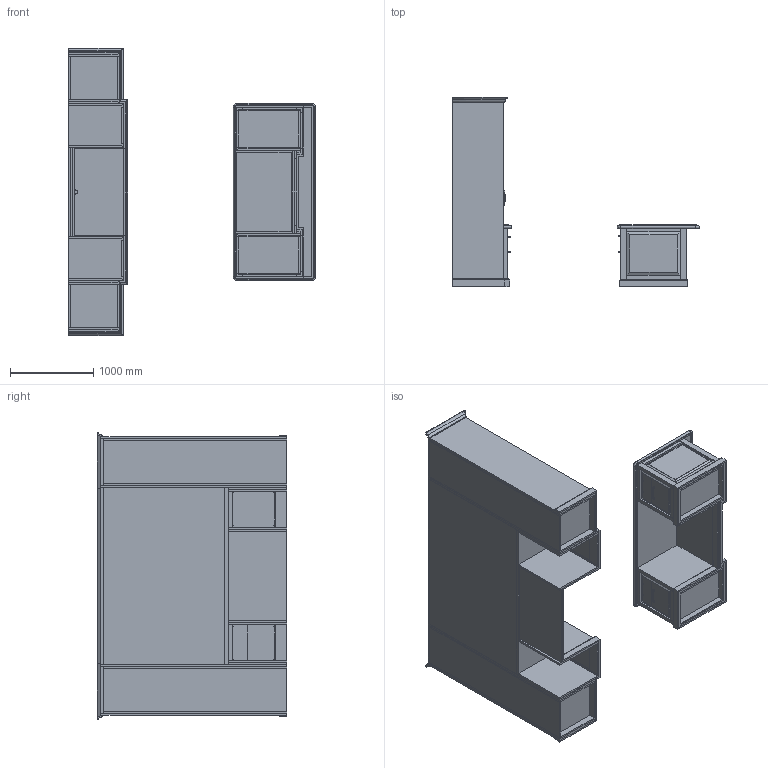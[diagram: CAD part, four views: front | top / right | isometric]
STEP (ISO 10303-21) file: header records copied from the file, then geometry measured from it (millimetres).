
FILE_DESCRIPTION(/* description */ ('','CAx-IF Rec.Pracs.---Representation and Presentation of Product Manufacturing Information (PMI)---4.0---2014-10-13'),/* implementation_level */ '2;1');
FILE_NAME(/* name */ 'PRIVATE OFFICE_CAMBRIDGE 2.stp',/* time_stamp */ '2024-12-08T11:18:13-05:00',/* author */ ('mbowman'),/* organization */ (''),/* preprocessor_version */ 'ST-DEVELOPER v19.2',/* originating_system */ 'Autodesk Inventor 2023',/* authorisation */ '');
FILE_SCHEMA (('AP242_MANAGED_MODEL_BASED_3D_ENGINEERING_MIM_LF { 1 0 10303 442 1 1 4 }'));
Length unit declared in the file: inch
Products named in the file (12): PRIVATE OFFICE_CAMBRIDGE 2; CCN^BRIGHTON_39x84 DESK-PARTS SOLID; CCN^BRIGHTON_39x84 DESK-PARTS SOLID_1; CCN^BRIGHTON_L2-A STRAIGHT WALL-SOLID ASSEMBLY; CCN^BRIGHTON_L2-A WALL HUNG-4 DOOR PARTS SOLID_MIR; CCN^BRIGHTON_L2-A WARDROBE-MIRROR PARTS SOLID; CCN^BRIGHTON_L2-A WARDROBE LEFT-SINGLE DOOR PARTS SOLID; CCN^BRIGHTON_L2-A WARDROBE LEFT-SINGLE DOOR PARTS SOLID_MIR; ART DECCO^GLAM-HAFELE 110_34_286_MIR; CCN^BRIGHTON_L2-A STRAIGHT CREDENZA-PARTS SOLID; ART DECCO^GLAM-HAFELE 110_34_286; CCN^BRIGHTON_KNOB PULL-ROUND
Assembly tree (19 placements, depth 4):
  PRIVATE OFFICE_CAMBRIDGE 2
    CCN^BRIGHTON_39x84 DESK-PARTS SOLID
      ART DECCO^GLAM-HAFELE 110_34_286  x4
      CCN^BRIGHTON_39x84 DESK-PARTS SOLID_1
    CCN^BRIGHTON_L2-A STRAIGHT WALL-SOLID ASSEMBLY
      CCN^BRIGHTON_L2-A WALL HUNG-4 DOOR PARTS SOLID_MIR
      CCN^BRIGHTON_L2-A WARDROBE-MIRROR PARTS SOLID
        CCN^BRIGHTON_L2-A WARDROBE LEFT-SINGLE DOOR PARTS SOLID
        ART DECCO^GLAM-HAFELE 110_34_286
        CCN^BRIGHTON_L2-A WARDROBE LEFT-SINGLE DOOR PARTS SOLID_MIR
        ART DECCO^GLAM-HAFELE 110_34_286_MIR
      CCN^BRIGHTON_L2-A STRAIGHT CREDENZA-PARTS SOLID
      ART DECCO^GLAM-HAFELE 110_34_286  x3
      CCN^BRIGHTON_KNOB PULL-ROUND  x2
Bounding box: 2971.78 x 2279.65 x 3454.4 mm (x, y, z)
Volume: 1027389025.9 mm3; surface area: 99947095.5 mm2
Topology: 140 solids, 140 shells, 1310 faces, 2832 edges, 1808 vertices
Faces by surface type: plane 1076, cylinder 144, torus 86, cone 4
Full cylindrical faces by diameter (mm): 21 x2, 25 x2, 48.26 x1
Entity records: 38395 total; most frequent: CARTESIAN_POINT 8247, DIRECTION 5342, ORIENTED_EDGE 5034, EDGE_CURVE 2517, LINE 2298, VECTOR 2298, STYLED_ITEM 1923, VERTEX_POINT 1608
